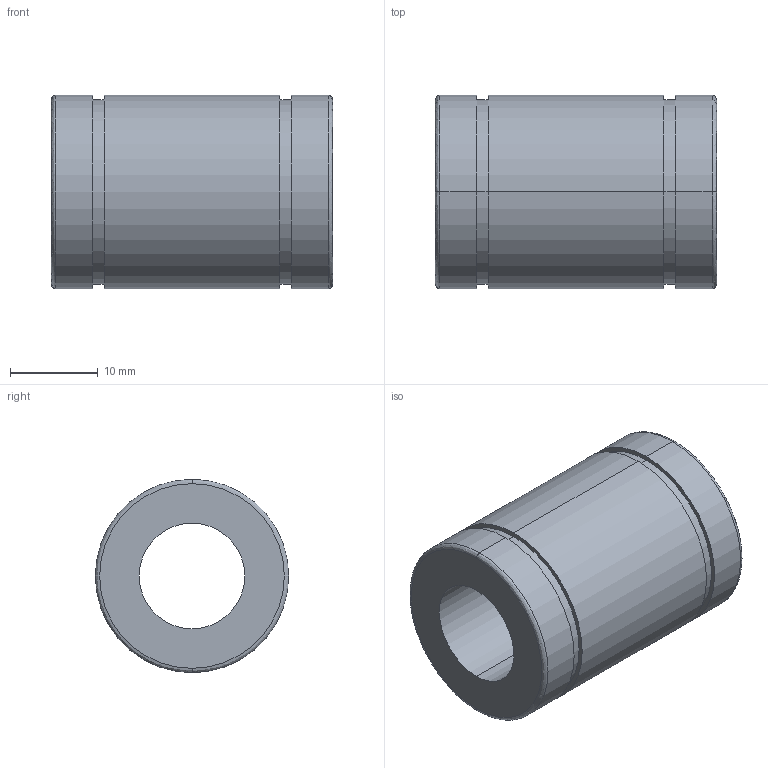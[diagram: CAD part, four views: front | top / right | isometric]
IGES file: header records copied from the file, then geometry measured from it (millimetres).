
Start section: 3D InterOp IGES (Version 21 0 1), Spatial Corp. Copyright (c) 1999-2007.
Global section: file name: SB-12.igs; native system: Spatial Corp.; preprocessor: 3D InterOp GENERIC/IGES 3.0; author: Noname; organization: Noname; date: 20220217.090547; units: millimetre
Bounding box: 32 x 22 x 22 mm (x, y, z)
Surface area: 4049.2 mm2 (no closed solid volume)
Topology: 0 solids, 0 shells, 22 faces, 88 edges, 88 vertices
Faces by surface type: revolution 16, extrusion 6
